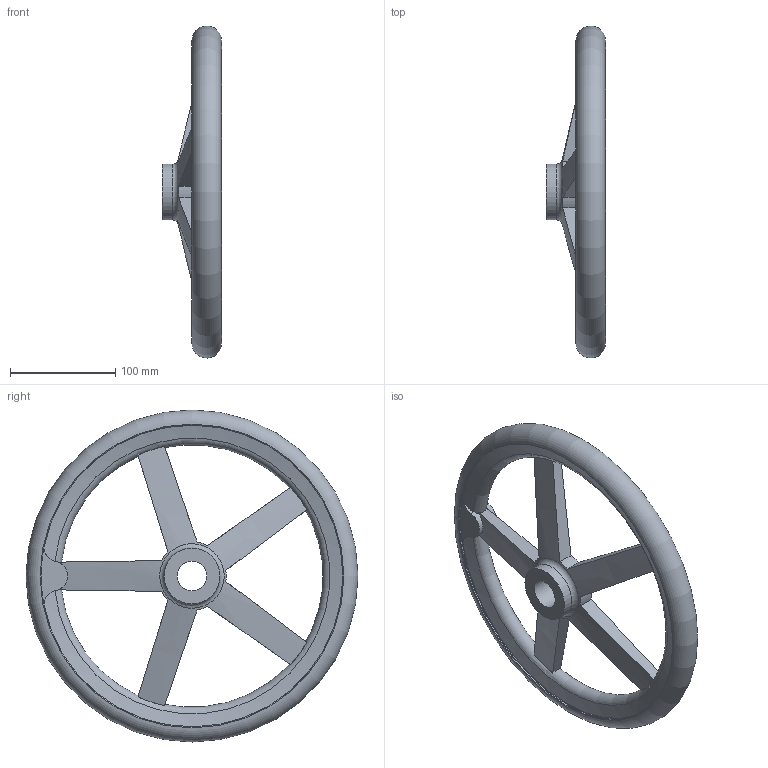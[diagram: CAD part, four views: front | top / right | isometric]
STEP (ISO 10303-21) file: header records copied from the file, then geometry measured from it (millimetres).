
FILE_DESCRIPTION( ( 'STEP AP203' ), '1' );
FILE_NAME( 'C:/Temp/Ganter_Step_05_03_2020/data/1_3/din_950/din_950_b/din_950_b_a/Handwheel DIN 950-AL-315-B28-A.stp', '2020-03-05T10:29:27', ( 'License CC BY-ND 4.0' ), ( 'CADENAS' ), ' ', 'PARTsolutions', ' ' );
FILE_SCHEMA( ( 'CONFIG_CONTROL_DESIGN' ) );
Length unit declared in the file: millimetre
Products named in the file (1): _Handwheel DIN 950-AL-315-B28-A
Bounding box: 56 x 314.99 x 314.99 mm (x, y, z)
Volume: 808855.2 mm3; surface area: 136206.3 mm2
Topology: 1 solids, 1 shells, 54 faces, 164 edges, 106 vertices
Faces by surface type: torus 20, cylinder 16, plane 14, cone 4
Full cylindrical faces by diameter (mm): 28 x1, 53 x2, 287 x2
Entity records: 2363 total; most frequent: CARTESIAN_POINT 997, ORIENTED_EDGE 292, DIRECTION 244, EDGE_CURVE 146, AXIS2_PLACEMENT_3D 115, VERTEX_POINT 103, EDGE_LOOP 74, B_SPLINE_CURVE_WITH_KNOTS 72
